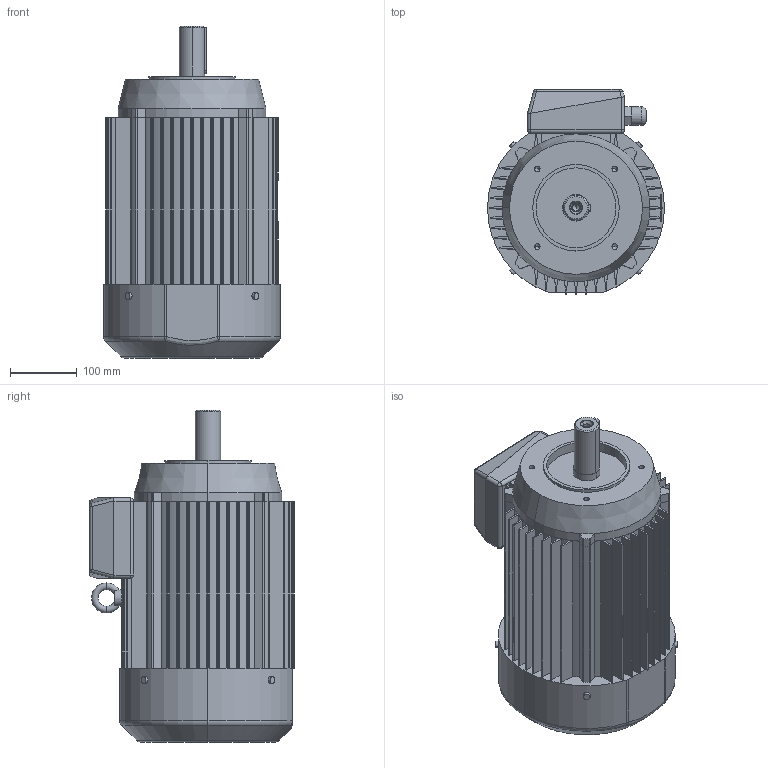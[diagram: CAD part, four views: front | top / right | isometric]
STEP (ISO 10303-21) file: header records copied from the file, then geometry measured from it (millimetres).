
FILE_DESCRIPTION (( 'STEP AP203' ), '1' );
FILE_NAME ('2SIEK132M4,6A,6B-B14-C2.STEP', '2013-01-07T13:22:44', ( 'INDUKTA' ), ( 'CANTONI MOTOR' ), 'SwSTEP 2.0', 'SolidWorks 2003064', '' );
FILE_SCHEMA (( 'CONFIG_CONTROL_DESIGN' ));
Length unit declared in the file: millimetre
Products named in the file (1): 2SIEK132M4,6A,6B-B14-C2
Bounding box: 266 x 308 x 499 mm (x, y, z)
Volume: 19479231.6 mm3; surface area: 1000564.5 mm2
Topology: 12 solids, 12 shells, 395 faces, 1044 edges, 655 vertices
Faces by surface type: cylinder 184, plane 165, cone 22, torus 13, sphere 10, bspline 1
Entity records: 12934 total; most frequent: CARTESIAN_POINT 2941, DIRECTION 2178, ORIENTED_EDGE 2048, EDGE_CURVE 1024, AXIS2_PLACEMENT_3D 796, VERTEX_POINT 655, LINE 586, VECTOR 586
